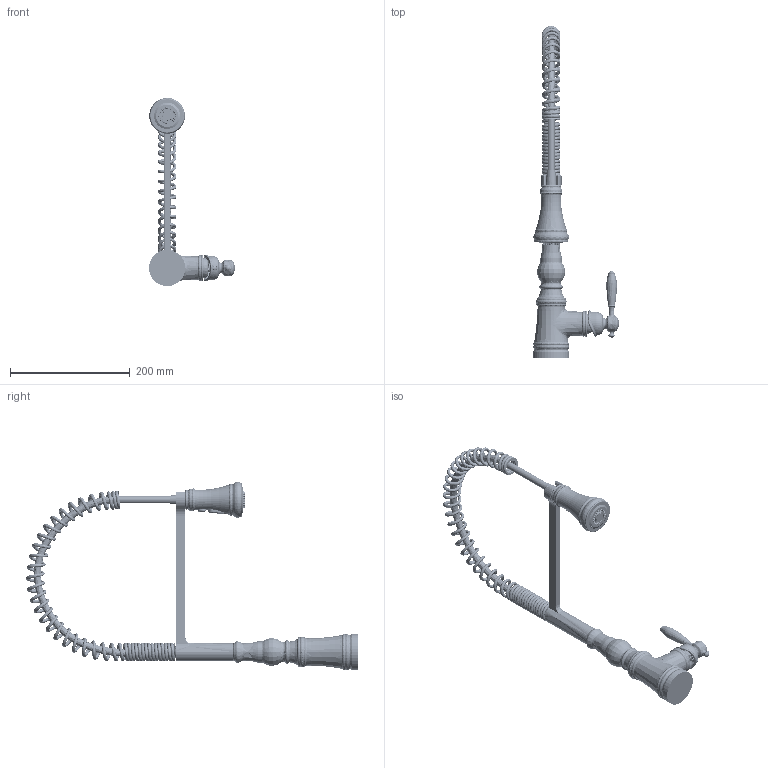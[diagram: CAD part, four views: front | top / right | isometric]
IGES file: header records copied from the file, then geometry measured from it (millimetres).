
Start section:  PTC IGES file: sku_s73104series.igs
Global section: file name: sku_s73104series.igs; native system: Creo Parametric by PTC Inc.; preprocessor: 2021184; author: mbrattol; organization: Unknown; date: 20210921.145709; units: inch
Bounding box: 143.44 x 553.75 x 314.18 mm (x, y, z)
Surface area: 292603.4 mm2 (no closed solid volume)
Topology: 0 solids, 0 shells, 6025 faces, 33200 edges, 33184 vertices
Faces by surface type: bspline 4392, revolution 1463, extrusion 170
